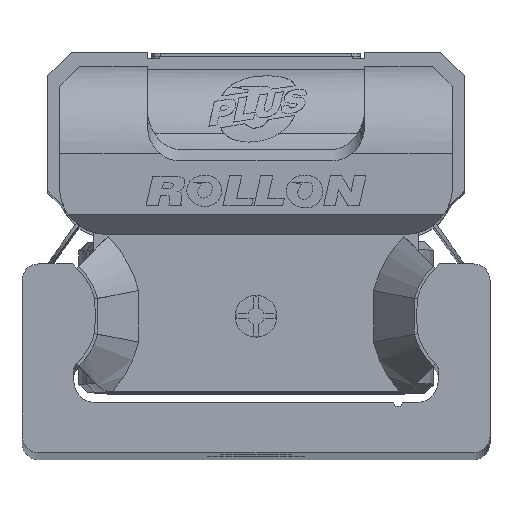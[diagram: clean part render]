
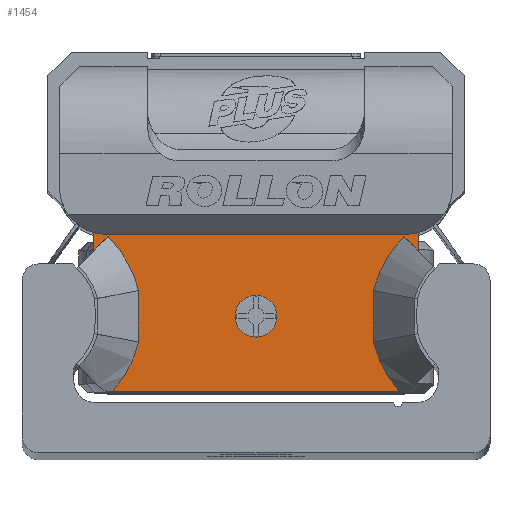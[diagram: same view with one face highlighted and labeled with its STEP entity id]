
A CAD part, top view. The second image highlights one B-rep face of the part: STEP entity #1454.
In plain terms, the highlighted planar face has unit normal (0, 0, 1) as drawn and (0, 0, -1) by its records, which use the part's own axes.
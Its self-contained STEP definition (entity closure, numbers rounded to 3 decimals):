
#1454 = ADVANCED_FACE( '', ( #3216, #3217 ), #3218, .F. );
#3216 = FACE_BOUND( '', #5385, .T. );
#3217 = FACE_OUTER_BOUND( '', #5386, .T. );
#3218 = PLANE( '', #5387 );
#5385 = EDGE_LOOP( '', ( #9292 ) );
#5386 = EDGE_LOOP( '', ( #9293, #9294, #9295, #9296, #9297, #9298, #9299, #9300, #9301, #9302, #9303, #9304, #9305, #9306 ) );
#5387 = AXIS2_PLACEMENT_3D( '', #9307, #9308, #9309 );
#9292 = ORIENTED_EDGE( '', *, *, #12442, .T. );
#9293 = ORIENTED_EDGE( '', *, *, #13405, .F. );
#9294 = ORIENTED_EDGE( '', *, *, #13406, .T. );
#9295 = ORIENTED_EDGE( '', *, *, #12544, .T. );
#9296 = ORIENTED_EDGE( '', *, *, #13181, .T. );
#9297 = ORIENTED_EDGE( '', *, *, #13407, .T. );
#9298 = ORIENTED_EDGE( '', *, *, #13408, .T. );
#9299 = ORIENTED_EDGE( '', *, *, #12429, .T. );
#9300 = ORIENTED_EDGE( '', *, *, #12874, .T. );
#9301 = ORIENTED_EDGE( '', *, *, #12400, .T. );
#9302 = ORIENTED_EDGE( '', *, *, #13409, .T. );
#9303 = ORIENTED_EDGE( '', *, *, #13410, .T. );
#9304 = ORIENTED_EDGE( '', *, *, #13378, .T. );
#9305 = ORIENTED_EDGE( '', *, *, #13411, .T. );
#9306 = ORIENTED_EDGE( '', *, *, #12482, .T. );
#9307 = CARTESIAN_POINT( '', ( 9.7, 4.89, -10.6 ) );
#9308 = DIRECTION( '', ( 0., 0., 1. ) );
#9309 = DIRECTION( '', ( 1., 0., 0. ) );
#12400 = EDGE_CURVE( '', #14938, #14935, #14939, .T. );
#12429 = EDGE_CURVE( '', #14990, #14991, #14992, .T. );
#12442 = EDGE_CURVE( '', #15013, #15013, #15014, .T. );
#12482 = EDGE_CURVE( '', #15079, #14713, #15080, .T. );
#12544 = EDGE_CURVE( '', #15179, #15181, #15183, .T. );
#12874 = EDGE_CURVE( '', #14991, #14938, #15717, .T. );
#13181 = EDGE_CURVE( '', #15181, #16164, #16166, .T. );
#13378 = EDGE_CURVE( '', #16444, #16442, #16445, .T. );
#13405 = EDGE_CURVE( '', #16481, #14713, #16482, .T. );
#13406 = EDGE_CURVE( '', #16481, #15179, #16483, .T. );
#13407 = EDGE_CURVE( '', #16164, #16484, #16485, .T. );
#13408 = EDGE_CURVE( '', #16484, #14990, #16486, .T. );
#13409 = EDGE_CURVE( '', #14935, #14955, #16487, .T. );
#13410 = EDGE_CURVE( '', #14955, #16444, #16488, .T. );
#13411 = EDGE_CURVE( '', #16442, #15079, #16489, .T. );
#14713 = VERTEX_POINT( '', #18169 );
#14935 = VERTEX_POINT( '', #18484 );
#14938 = VERTEX_POINT( '', #18492 );
#14939 = B_SPLINE_CURVE_WITH_KNOTS( '', 2, ( #18493, #18494, #18495 ), .UNSPECIFIED., .F., .F., ( 3, 3 ), ( 0., 1. ), .UNSPECIFIED. );
#14955 = VERTEX_POINT( '', #18530 );
#14990 = VERTEX_POINT( '', #18579 );
#14991 = VERTEX_POINT( '', #18580 );
#14992 = B_SPLINE_CURVE_WITH_KNOTS( '', 2, ( #18581, #18582, #18583, #18584, #18585 ), .UNSPECIFIED., .F., .F., ( 3, 2, 3 ), ( 0., 0.5, 1. ), .UNSPECIFIED. );
#15013 = VERTEX_POINT( '', #18613 );
#15014 = CIRCLE( '', #18614, 1.25 );
#15079 = VERTEX_POINT( '', #18692 );
#15080 = LINE( '', #18693, #18694 );
#15179 = VERTEX_POINT( '', #18823 );
#15181 = VERTEX_POINT( '', #18826 );
#15183 = LINE( '', #18829, #18830 );
#15717 = B_SPLINE_CURVE_WITH_KNOTS( '', 2, ( #19692, #19693, #19694 ), .UNSPECIFIED., .F., .F., ( 3, 3 ), ( 0., 1. ), .UNSPECIFIED. );
#16164 = VERTEX_POINT( '', #20319 );
#16166 = CIRCLE( '', #20322, 2.8 );
#16442 = VERTEX_POINT( '', #20723 );
#16444 = VERTEX_POINT( '', #20726 );
#16445 = B_SPLINE_CURVE_WITH_KNOTS( '', 2, ( #20727, #20728, #20729 ), .UNSPECIFIED., .F., .F., ( 3, 3 ), ( 0., 1. ), .UNSPECIFIED. );
#16481 = VERTEX_POINT( '', #20777 );
#16482 = LINE( '', #20778, #20779 );
#16483 = CIRCLE( '', #20780, 2.8 );
#16484 = VERTEX_POINT( '', #20781 );
#16485 = LINE( '', #20782, #20783 );
#16486 = LINE( '', #20784, #20785 );
#16487 = LINE( '', #20786, #20787 );
#16488 = B_SPLINE_CURVE_WITH_KNOTS( '', 2, ( #20788, #20789, #20790 ), .UNSPECIFIED., .F., .F., ( 3, 3 ), ( 0.1, 1. ), .UNSPECIFIED. );
#16489 = B_SPLINE_CURVE_WITH_KNOTS( '', 2, ( #20791, #20792, #20793 ), .UNSPECIFIED., .F., .F., ( 3, 3 ), ( 0., 1. ), .UNSPECIFIED. );
#18169 = CARTESIAN_POINT( '', ( -9.7, 3.494, -10.6 ) );
#18484 = CARTESIAN_POINT( '', ( 8.59, -4.893, -10.6 ) );
#18492 = CARTESIAN_POINT( '', ( 7.031, -1.944, -10.6 ) );
#18493 = CARTESIAN_POINT( '', ( 7.031, -1.944, -10.6 ) );
#18494 = CARTESIAN_POINT( '', ( 7.429, -3.615, -10.6 ) );
#18495 = CARTESIAN_POINT( '', ( 8.588, -4.89, -10.6 ) );
#18530 = CARTESIAN_POINT( '', ( -8.59, -4.893, -10.6 ) );
#18579 = CARTESIAN_POINT( '', ( 8.853, 4.366, -10.6 ) );
#18580 = CARTESIAN_POINT( '', ( 7.031, 1.144, -10.6 ) );
#18581 = CARTESIAN_POINT( '', ( 8.853, 4.366, -10.6 ) );
#18582 = CARTESIAN_POINT( '', ( 8.182, 3.708, -10.6 ) );
#18583 = CARTESIAN_POINT( '', ( 7.715, 2.883, -10.6 ) );
#18584 = CARTESIAN_POINT( '', ( 7.249, 2.058, -10.6 ) );
#18585 = CARTESIAN_POINT( '', ( 7.031, 1.144, -10.6 ) );
#18613 = CARTESIAN_POINT( '', ( 1.25, -0.39, -10.6 ) );
#18614 = AXIS2_PLACEMENT_3D( '', #22525, #22526, #22527 );
#18692 = CARTESIAN_POINT( '', ( -8.853, 4.366, -10.6 ) );
#18693 = CARTESIAN_POINT( '', ( -8.853, 4.366, -10.6 ) );
#18694 = VECTOR( '', #22586, 1000. );
#18823 = CARTESIAN_POINT( '', ( -8.95, 4.51, -10.6 ) );
#18826 = CARTESIAN_POINT( '', ( 8.95, 4.51, -10.6 ) );
#18829 = CARTESIAN_POINT( '', ( 9.7, 4.51, -10.6 ) );
#18830 = VECTOR( '', #22683, 1000. );
#19692 = CARTESIAN_POINT( '', ( 7.031, 1.144, -10.6 ) );
#19693 = CARTESIAN_POINT( '', ( 6.929, -0.4, -10.6 ) );
#19694 = CARTESIAN_POINT( '', ( 7.031, -1.944, -10.6 ) );
#20319 = CARTESIAN_POINT( '', ( 9.7, 4.612, -10.6 ) );
#20322 = AXIS2_PLACEMENT_3D( '', #23490, #23491, #23492 );
#20723 = CARTESIAN_POINT( '', ( -7.031, 1.144, -10.6 ) );
#20726 = CARTESIAN_POINT( '', ( -7.031, -1.944, -10.6 ) );
#20727 = CARTESIAN_POINT( '', ( -7.031, -1.944, -10.6 ) );
#20728 = CARTESIAN_POINT( '', ( -6.929, -0.4, -10.6 ) );
#20729 = CARTESIAN_POINT( '', ( -7.031, 1.144, -10.6 ) );
#20777 = CARTESIAN_POINT( '', ( -9.7, 4.612, -10.6 ) );
#20778 = CARTESIAN_POINT( '', ( -9.7, 4.89, -10.6 ) );
#20779 = VECTOR( '', #23752, 1000. );
#20780 = AXIS2_PLACEMENT_3D( '', #23753, #23754, #23755 );
#20781 = CARTESIAN_POINT( '', ( 9.7, 3.497, -10.6 ) );
#20782 = CARTESIAN_POINT( '', ( 9.7, 4.89, -10.6 ) );
#20783 = VECTOR( '', #23756, 1000. );
#20784 = CARTESIAN_POINT( '', ( 9.7, 3.501, -10.6 ) );
#20785 = VECTOR( '', #23757, 1000. );
#20786 = CARTESIAN_POINT( '', ( 9.7, -4.89, -10.6 ) );
#20787 = VECTOR( '', #23758, 1000. );
#20788 = CARTESIAN_POINT( '', ( -8.587, -4.89, -10.6 ) );
#20789 = CARTESIAN_POINT( '', ( -7.432, -3.63, -10.6 ) );
#20790 = CARTESIAN_POINT( '', ( -7.031, -1.944, -10.6 ) );
#20791 = CARTESIAN_POINT( '', ( -7.031, 1.144, -10.6 ) );
#20792 = CARTESIAN_POINT( '', ( -7.477, 3.018, -10.6 ) );
#20793 = CARTESIAN_POINT( '', ( -8.853, 4.366, -10.6 ) );
#22525 = CARTESIAN_POINT( '', ( 0., -0.39, -10.6 ) );
#22526 = DIRECTION( '', ( 0., 0., 1. ) );
#22527 = DIRECTION( '', ( 1., 0., 0. ) );
#22586 = DIRECTION( '', ( -0.7, -0.714, 0. ) );
#22683 = DIRECTION( '', ( 1., 0., 0. ) );
#23490 = CARTESIAN_POINT( '', ( 8.95, 7.31, -10.6 ) );
#23491 = DIRECTION( '', ( 0., 0., 1. ) );
#23492 = DIRECTION( '', ( 1., 0., 0. ) );
#23752 = DIRECTION( '', ( 0., -1., 0. ) );
#23753 = CARTESIAN_POINT( '', ( -8.95, 7.31, -10.6 ) );
#23754 = DIRECTION( '', ( 0., 0., 1. ) );
#23755 = DIRECTION( '', ( 1., 0., 0. ) );
#23756 = DIRECTION( '', ( 0., -1., 0. ) );
#23757 = DIRECTION( '', ( -0.7, 0.714, 0. ) );
#23758 = DIRECTION( '', ( -1., 0., 0. ) );
